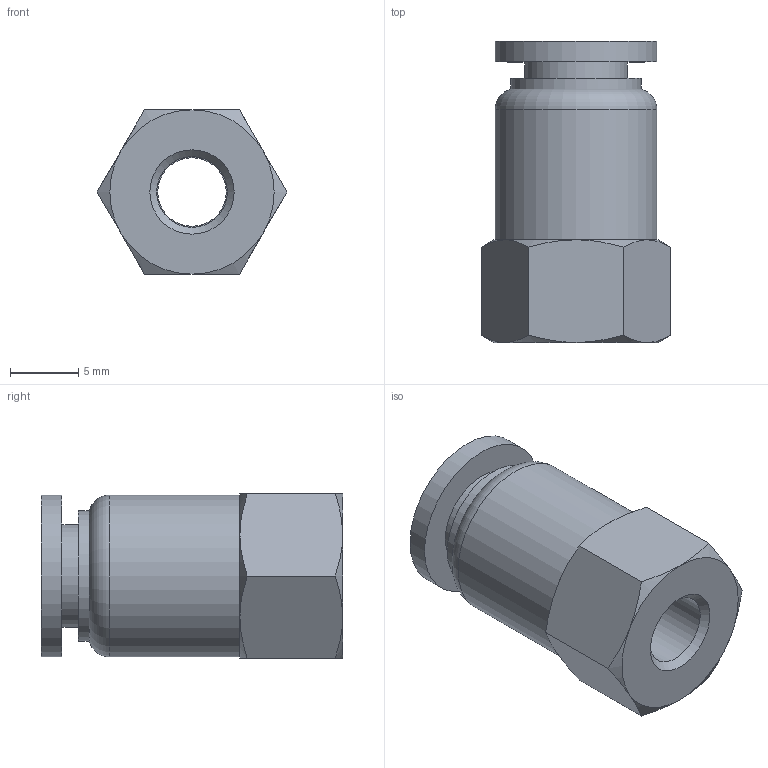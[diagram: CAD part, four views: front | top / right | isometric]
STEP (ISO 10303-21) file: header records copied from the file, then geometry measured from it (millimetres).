
FILE_DESCRIPTION(/* description */ (''),/* implementation_level */ '2;1');
FILE_NAME(/* name */ 'S:\_Tecnico\ArchivioUT\_Disegni3D ingombri\DISEGNI 3D per ingombri\RP\RP 52\RP52M606.stp',/* time_stamp */ '2019-07-29T09:54:11+02:00',/* author */ ('ufficiotecnico3'),/* organization */ (''),/* preprocessor_version */ 'ST-DEVELOPER v18',/* originating_system */ 'Autodesk Inventor 2020',/* authorisation */ '');
FILE_SCHEMA (('AUTOMOTIVE_DESIGN { 1 0 10303 214 3 1 1 }'));
Length unit declared in the file: millimetre
Products named in the file (1): RP52M606
Bounding box: 13.86 x 22 x 12 mm (x, y, z)
Volume: 1822.1 mm3; surface area: 1523.9 mm2
Topology: 1 solids, 1 shells, 34 faces, 78 edges, 51 vertices
Faces by surface type: cone 13, plane 13, cylinder 7, torus 1
Full cylindrical faces by diameter (mm): 5 x1, 5.153 x1, 6 x1, 7.5 x1, 9.5 x1, 11.8 x2
Entity records: 999 total; most frequent: CARTESIAN_POINT 212, DIRECTION 164, ORIENTED_EDGE 156, EDGE_CURVE 78, AXIS2_PLACEMENT_3D 75, VERTEX_POINT 51, EDGE_LOOP 41, CIRCLE 40
